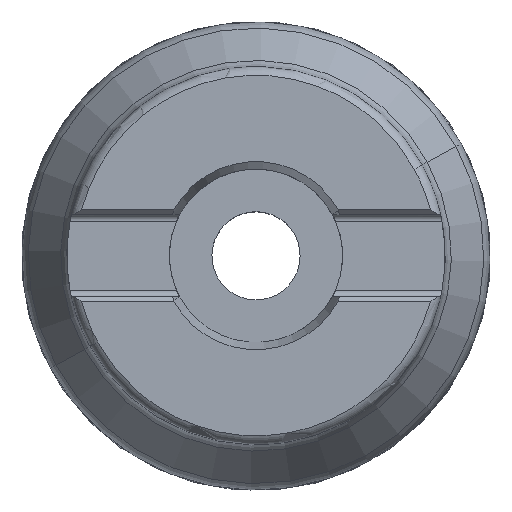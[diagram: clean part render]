
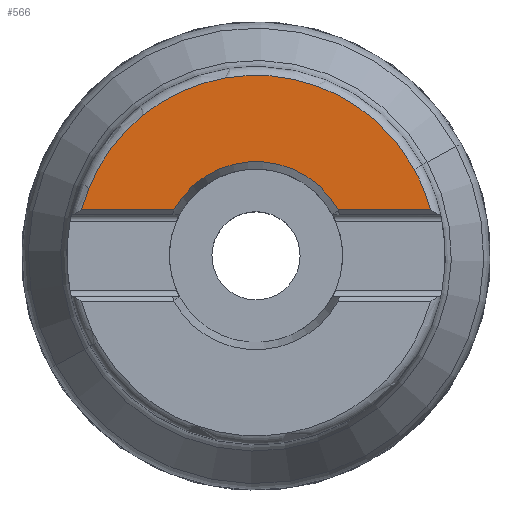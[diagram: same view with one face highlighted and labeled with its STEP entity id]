
A CAD part, top view. The second image highlights one B-rep face of the part: STEP entity #566.
In plain terms, the highlighted planar face has unit normal (0, 0, 1).
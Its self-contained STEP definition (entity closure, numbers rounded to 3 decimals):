
#88=AXIS2_PLACEMENT_3D('Circle Axis2P3D',#86,#87,$) ;
#294=AXIS2_PLACEMENT_3D('Plane Axis2P3D',#291,#292,#293) ;
#37=CARTESIAN_POINT('Line Origine',(-16.279,5.8,40.)) ;
#41=CARTESIAN_POINT('Vertex',(-10.434,5.8,40.)) ;
#43=CARTESIAN_POINT('Vertex',(-22.124,5.8,40.)) ;
#86=CARTESIAN_POINT('Axis2P3D Location',(0.,0.,40.)) ;
#90=CARTESIAN_POINT('Vertex',(10.434,5.8,40.)) ;
#291=CARTESIAN_POINT('Axis2P3D Location',(0.,14.,40.)) ;
#493=CARTESIAN_POINT('Line Origine',(16.279,5.8,40.)) ;
#497=CARTESIAN_POINT('Vertex',(22.124,5.8,40.)) ;
#527=CARTESIAN_POINT('Control Point',(22.124,5.8,40.)) ;
#528=CARTESIAN_POINT('Control Point',(21.842,6.878,40.)) ;
#529=CARTESIAN_POINT('Control Point',(21.493,7.939,40.)) ;
#530=CARTESIAN_POINT('Control Point',(21.081,8.977,40.)) ;
#531=CARTESIAN_POINT('Control Point',(20.606,9.987,40.)) ;
#532=CARTESIAN_POINT('Control Point',(20.072,10.965,40.)) ;
#533=CARTESIAN_POINT('Vertex',(20.072,10.965,40.)) ;
#537=CARTESIAN_POINT('Control Point',(20.072,10.965,40.)) ;
#538=CARTESIAN_POINT('Control Point',(19.172,12.612,40.)) ;
#539=CARTESIAN_POINT('Control Point',(18.104,14.166,40.)) ;
#540=CARTESIAN_POINT('Control Point',(16.879,15.606,40.)) ;
#541=CARTESIAN_POINT('Control Point',(14.152,18.212,40.)) ;
#542=CARTESIAN_POINT('Control Point',(10.952,20.211,40.)) ;
#543=CARTESIAN_POINT('Control Point',(9.255,21.042,40.)) ;
#544=CARTESIAN_POINT('Control Point',(5.714,22.345,40.)) ;
#545=CARTESIAN_POINT('Control Point',(1.983,22.902,40.)) ;
#546=CARTESIAN_POINT('Control Point',(0.095,22.988,40.)) ;
#547=CARTESIAN_POINT('Control Point',(-3.672,22.77,40.)) ;
#548=CARTESIAN_POINT('Control Point',(-7.316,21.793,40.)) ;
#549=CARTESIAN_POINT('Control Point',(-9.081,21.118,40.)) ;
#550=CARTESIAN_POINT('Control Point',(-12.449,19.416,40.)) ;
#551=CARTESIAN_POINT('Control Point',(-15.4,17.067,40.)) ;
#552=CARTESIAN_POINT('Control Point',(-16.75,15.744,40.)) ;
#553=CARTESIAN_POINT('Control Point',(-18.936,13.11,40.)) ;
#554=CARTESIAN_POINT('Control Point',(-20.595,10.124,40.)) ;
#555=CARTESIAN_POINT('Control Point',(-21.226,8.724,40.)) ;
#556=CARTESIAN_POINT('Control Point',(-21.737,7.278,40.)) ;
#557=CARTESIAN_POINT('Control Point',(-22.124,5.8,40.)) ;
#38=DIRECTION('Vector Direction',(-1.,0.,0.)) ;
#87=DIRECTION('Axis2P3D Direction',(0.,0.,1.)) ;
#292=DIRECTION('Axis2P3D Direction',(0.,0.,-1.)) ;
#293=DIRECTION('Axis2P3D XDirection',(-1.,0.,0.)) ;
#494=DIRECTION('Vector Direction',(-1.,0.,0.)) ;
#39=VECTOR('Line Direction',#38,1.) ;
#495=VECTOR('Line Direction',#494,1.) ;
#560=ORIENTED_EDGE('',*,*,#535,.T.) ;
#561=ORIENTED_EDGE('',*,*,#558,.T.) ;
#562=ORIENTED_EDGE('',*,*,#45,.F.) ;
#563=ORIENTED_EDGE('',*,*,#92,.T.) ;
#564=ORIENTED_EDGE('',*,*,#499,.F.) ;
#566=ADVANCED_FACE('NOCUT',(#565),#295,.F.) ;
#526=B_SPLINE_CURVE_WITH_KNOTS('',5,(#527,#528,#529,#530,#531,#532),.UNSPECIFIED.,.F.,.U.,(6,6),(1.222,8.953),.UNSPECIFIED.) ;
#536=B_SPLINE_CURVE_WITH_KNOTS('',5,(#537,#538,#539,#540,#541,#542,#543,#544,#545,#546,#547,#548,#549,#550,#551,#552,#553,#554,#555,#556,#557),.UNSPECIFIED.,.F.,.U.,(6,3,3,3,3,3,6),(0.,13.018,26.037,39.056,52.074,65.093,75.694),.UNSPECIFIED.) ;
#89=CIRCLE('generated circle',#88,11.938) ;
#45=EDGE_CURVE('',#42,#44,#40,.T.) ;
#92=EDGE_CURVE('',#42,#91,#89,.F.) ;
#499=EDGE_CURVE('',#498,#91,#496,.T.) ;
#535=EDGE_CURVE('',#498,#534,#526,.T.) ;
#558=EDGE_CURVE('',#534,#44,#536,.T.) ;
#559=EDGE_LOOP('',(#560,#561,#562,#563,#564)) ;
#565=FACE_OUTER_BOUND('',#559,.T.) ;
#40=LINE('Line',#37,#39) ;
#496=LINE('Line',#493,#495) ;
#295=PLANE('',#294) ;
#42=VERTEX_POINT('',#41) ;
#44=VERTEX_POINT('',#43) ;
#91=VERTEX_POINT('',#90) ;
#498=VERTEX_POINT('',#497) ;
#534=VERTEX_POINT('',#533) ;
